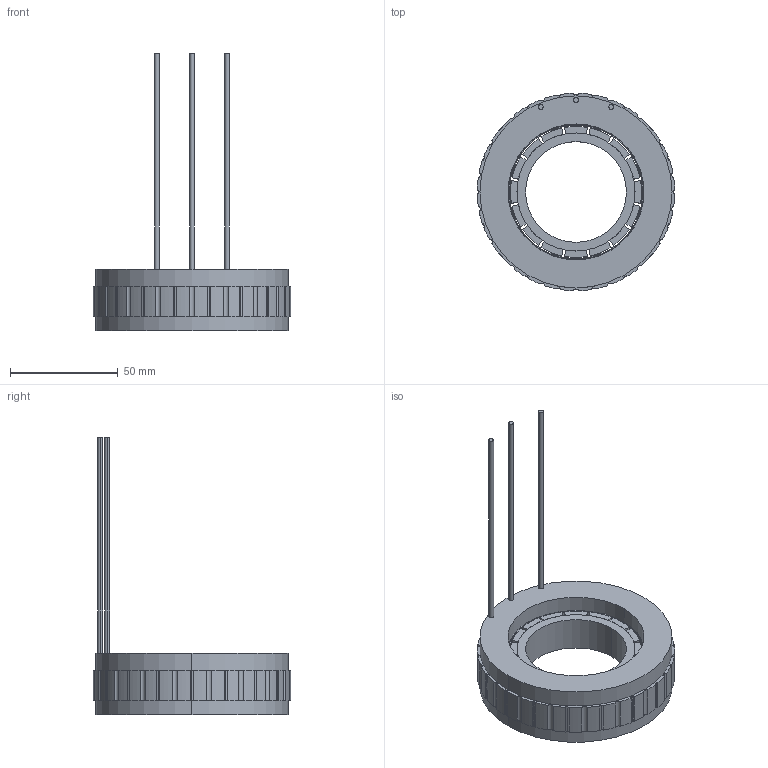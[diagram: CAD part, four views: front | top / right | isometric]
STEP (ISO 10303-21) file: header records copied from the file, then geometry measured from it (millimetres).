
FILE_DESCRIPTION (( 'STEP AP203' ), '1' );
FILE_NAME ('307080335SS FMC09114-0063-3046N-8DS00-V1.0.STEP', '2022-12-07T07:00:16', ( 'muse' ), ( 'muse' ), 'SwSTEP 2.0', 'SolidWorks 2022', '' );
FILE_SCHEMA (( 'CONFIG_CONTROL_DESIGN' ));
Length unit declared in the file: millimetre
Products named in the file (6): 91定子铁芯; 91包胶; 91线包100; 307080335SS FMC09114-0063-3046N-8DS00-V1.0; 转子铁芯 91L16; 91L14磁钢
Assembly tree (54 placements, depth 2):
  307080335SS FMC09114-0063-3046N-8DS00-V1.0
    91包胶  x18
    91定子铁芯  x18
    91线包100
    转子铁芯 91L16
    91L14磁钢  x16
Bounding box: 91.49 x 91.46 x 128.5 mm (x, y, z)
Volume: 103143.4 mm3; surface area: 80901.9 mm2
Topology: 55 solids, 55 shells, 1473 faces, 4044 edges, 2648 vertices
Faces by surface type: plane 865, cylinder 608
Entity records: 5513 total; most frequent: DIRECTION 709, CARTESIAN_POINT 624, ORIENTED_EDGE 554, EDGE_CURVE 277, AXIS2_PLACEMENT_3D 267, VERTEX_POINT 182, LINE 175, VECTOR 175
